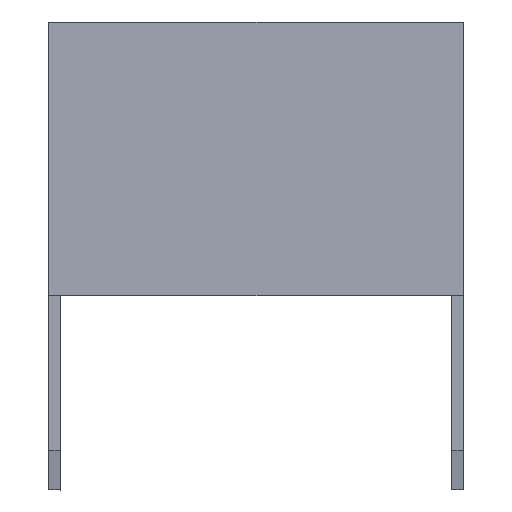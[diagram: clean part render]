
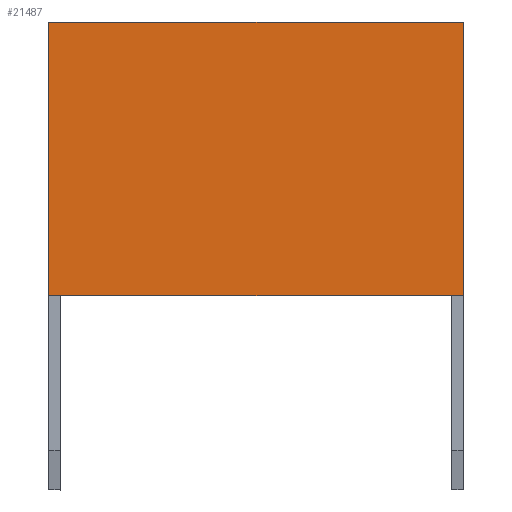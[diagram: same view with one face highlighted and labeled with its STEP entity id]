
A CAD part, left-side view. The second image highlights one B-rep face of the part: STEP entity #21487.
In plain terms, the highlighted planar face has unit normal (-1, 0, 0).
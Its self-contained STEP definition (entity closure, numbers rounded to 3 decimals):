
#1369 = ORIENTED_EDGE ( 'NONE', *, *, #34048, .T. ) ;
#1684 = AXIS2_PLACEMENT_3D ( 'NONE', #35989, #28476, #42390 ) ;
#2155 = VECTOR ( 'NONE', #38741, 1000. ) ;
#2847 = VERTEX_POINT ( 'NONE', #26611 ) ;
#4627 = CARTESIAN_POINT ( 'NONE',  ( -66.209, -3.391, -1.775 ) ) ;
#5985 = CARTESIAN_POINT ( 'NONE',  ( -66.209, -8.621, 1.725 ) ) ;
#8723 = ORIENTED_EDGE ( 'NONE', *, *, #10812, .F. ) ;
#8822 = LINE ( 'NONE', #25078, #2155 ) ;
#9516 = DIRECTION ( 'NONE',  ( 0., 0., 1. ) ) ;
#9864 = CARTESIAN_POINT ( 'NONE',  ( -66.209, -2.534, -1.775 ) ) ;
#10271 = DIRECTION ( 'NONE',  ( 0., -1., 0. ) ) ;
#10812 = EDGE_CURVE ( 'NONE', #41280, #24558, #16114, .T. ) ;
#12383 = LINE ( 'NONE', #5985, #39693 ) ;
#15964 = FACE_OUTER_BOUND ( 'NONE', #27546, .T. ) ;
#16021 = VECTOR ( 'NONE', #9516, 1000. ) ;
#16114 = LINE ( 'NONE', #26631, #16021 ) ;
#16652 = LINE ( 'NONE', #9864, #23537 ) ;
#20334 = CARTESIAN_POINT ( 'NONE',  ( -66.209, -3.391, 1.675 ) ) ;
#21487 = ADVANCED_FACE ( 'NONE', ( #15964 ), #22559, .F. ) ;
#22559 = PLANE ( 'NONE',  #1684 ) ;
#23537 = VECTOR ( 'NONE', #10271, 1000. ) ;
#24500 = VERTEX_POINT ( 'NONE', #27563 ) ;
#24558 = VERTEX_POINT ( 'NONE', #20334 ) ;
#25078 = CARTESIAN_POINT ( 'NONE',  ( -66.209, -3.391, 1.675 ) ) ;
#26611 = CARTESIAN_POINT ( 'NONE',  ( -66.209, -8.621, 1.675 ) ) ;
#26631 = CARTESIAN_POINT ( 'NONE',  ( -66.209, -3.391, -1.725 ) ) ;
#27546 = EDGE_LOOP ( 'NONE', ( #40373, #8723, #43164, #1369 ) ) ;
#27563 = CARTESIAN_POINT ( 'NONE',  ( -66.209, -8.621, -1.775 ) ) ;
#28476 = DIRECTION ( 'NONE',  ( 1., 0., 0. ) ) ;
#33520 = EDGE_CURVE ( 'NONE', #41280, #24500, #16652, .T. ) ;
#34048 = EDGE_CURVE ( 'NONE', #24500, #2847, #12383, .T. ) ;
#35989 = CARTESIAN_POINT ( 'NONE',  ( -66.209, -8.621, 1.725 ) ) ;
#38741 = DIRECTION ( 'NONE',  ( 0., -1., 0. ) ) ;
#39214 = DIRECTION ( 'NONE',  ( 0., 0., 1. ) ) ;
#39693 = VECTOR ( 'NONE', #39214, 1000. ) ;
#40373 = ORIENTED_EDGE ( 'NONE', *, *, #42431, .F. ) ;
#41280 = VERTEX_POINT ( 'NONE', #4627 ) ;
#42390 = DIRECTION ( 'NONE',  ( 0., 0., -1. ) ) ;
#42431 = EDGE_CURVE ( 'NONE', #24558, #2847, #8822, .T. ) ;
#43164 = ORIENTED_EDGE ( 'NONE', *, *, #33520, .T. ) ;
